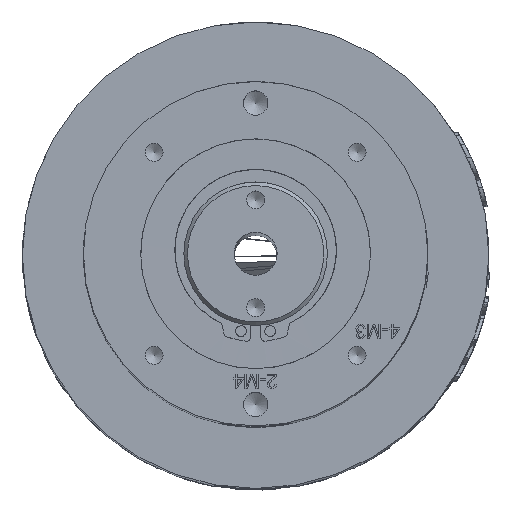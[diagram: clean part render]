
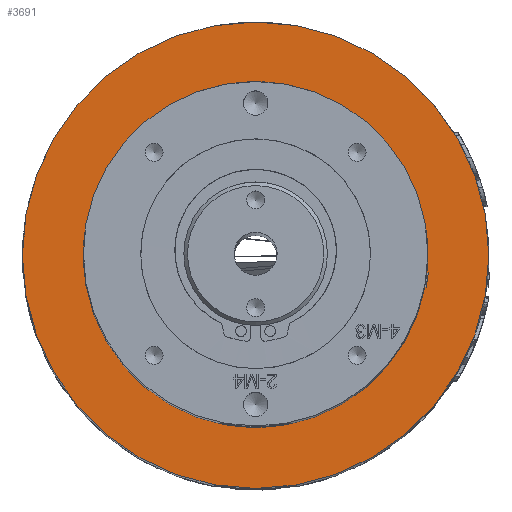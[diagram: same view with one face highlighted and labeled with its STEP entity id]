
A CAD part, top view. The second image highlights one B-rep face of the part: STEP entity #3691.
In plain terms, the highlighted planar face has unit normal (0, 0, 1).
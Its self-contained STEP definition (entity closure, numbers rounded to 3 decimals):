
#991=FACE_BOUND('',#7789,.T.);
#992=FACE_BOUND('',#7790,.T.);
#1762=CIRCLE('',#30000,32.5);
#1763=CIRCLE('',#30001,24.);
#3691=ADVANCED_FACE('',(#991,#992),#4823,.T.);
#4823=PLANE('',#30002);
#7789=EDGE_LOOP('',(#15389));
#7790=EDGE_LOOP('',(#15390));
#15389=ORIENTED_EDGE('',*,*,#24875,.T.);
#15390=ORIENTED_EDGE('',*,*,#24876,.F.);
#21174=VERTEX_POINT('',#53062);
#21175=VERTEX_POINT('',#53064);
#24875=EDGE_CURVE('',#21174,#21174,#1762,.T.);
#24876=EDGE_CURVE('',#21175,#21175,#1763,.T.);
#30000=AXIS2_PLACEMENT_3D('',#53061,#34008,#34009);
#30001=AXIS2_PLACEMENT_3D('',#53063,#34010,#34011);
#30002=AXIS2_PLACEMENT_3D('',#53065,#34012,#34013);
#34008=DIRECTION('',(0.,0.,1.));
#34009=DIRECTION('',(1.,0.,0.));
#34010=DIRECTION('',(0.,0.,1.));
#34011=DIRECTION('',(1.,0.,0.));
#34012=DIRECTION('',(0.,0.,1.));
#34013=DIRECTION('',(1.,0.,0.));
#53061=CARTESIAN_POINT('',(0.,0.,139.));
#53062=CARTESIAN_POINT('',(32.5,0.,139.));
#53063=CARTESIAN_POINT('',(0.,0.,139.));
#53064=CARTESIAN_POINT('',(24.,0.,139.));
#53065=CARTESIAN_POINT('',(-545.164,218.638,139.));
